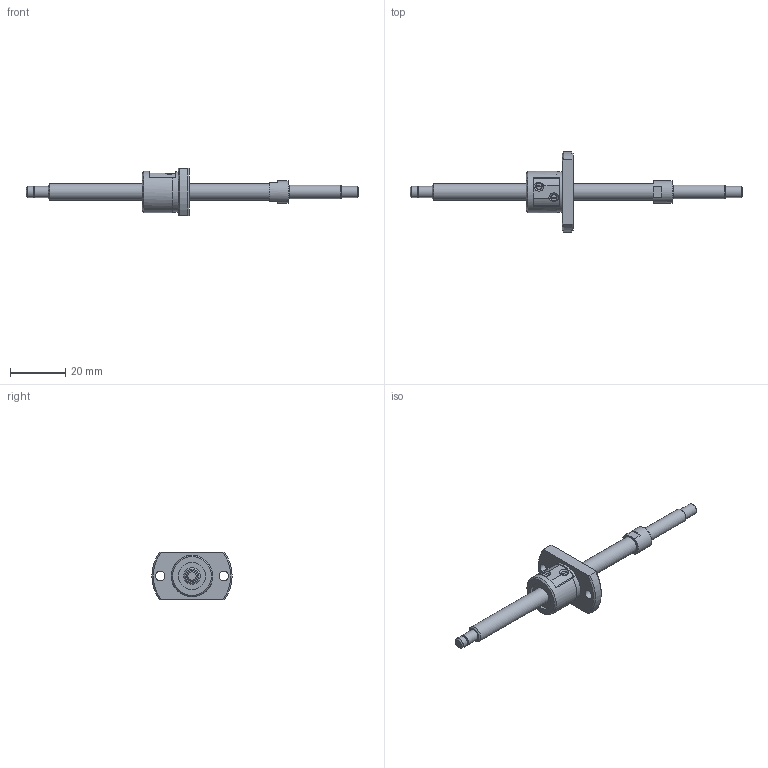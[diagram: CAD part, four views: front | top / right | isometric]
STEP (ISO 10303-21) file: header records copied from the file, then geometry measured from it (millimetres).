
FILE_DESCRIPTION(/* description */ ('STEP AP214'),/* implementation_level */ '2;1');
FILE_NAME(/* name */ 'SG0602-077R120C5B0X(34)',/* time_stamp */ '2026-07-20T20:14:14+02:00',/* author */ ('License CC BY-ND 4.0'),/* organization */ ('CADENAS'),/* preprocessor_version */ 'ST-DEVELOPER v20',/* originating_system */ 'PARTsolutions',/* authorisation */ ' ');
FILE_SCHEMA (('AUTOMOTIVE_DESIGN {1 0 10303 214 3 1 1}'));
Length unit declared in the file: millimetre
Products named in the file (3): SG0602-077R120C5B0X(34); SG0602-77R120C5B_shaft; SG0602 C5_nut
Assembly tree (2 placements, depth 2):
  SG0602-077R120C5B0X(34)
    SG0602-77R120C5B_shaft
    SG0602 C5_nut
Bounding box: 120 x 29 x 17 mm (x, y, z)
Volume: 6555.5 mm3; surface area: 4459.5 mm2
Topology: 2 solids, 2 shells, 78 faces, 185 edges, 122 vertices
Faces by surface type: plane 37, cylinder 26, cone 14, torus 1
Full cylindrical faces by diameter (mm): 3.4 x2, 3.7 x1, 4 x3, 5 x1, 6 x2, 8 x1, 10 x2, 14.6 x1, 15 x1
Entity records: 2167 total; most frequent: CARTESIAN_POINT 403, DIRECTION 368, ORIENTED_EDGE 300, AXIS2_PLACEMENT_3D 155, EDGE_CURVE 150, EDGE_LOOP 120, FACE_BOUND 120, VERTEX_POINT 112
